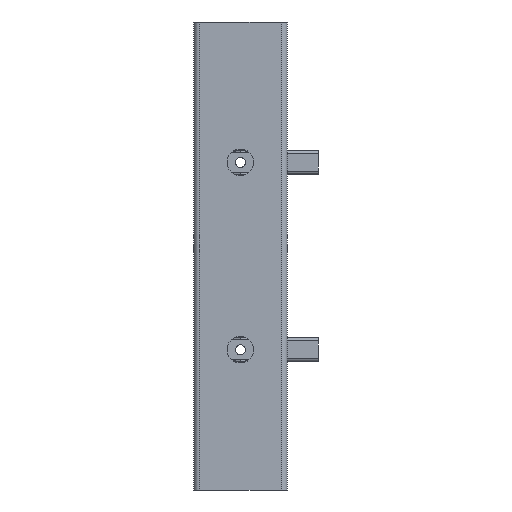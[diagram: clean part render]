
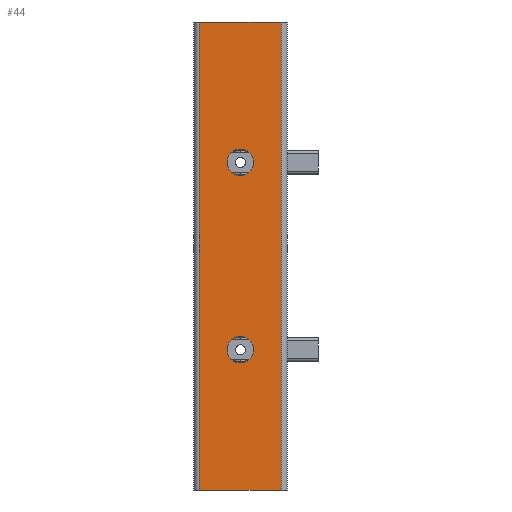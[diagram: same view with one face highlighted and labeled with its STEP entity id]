
A CAD part, front view. The second image highlights one B-rep face of the part: STEP entity #44.
In plain terms, the highlighted planar face has unit normal (0, -1, 0).
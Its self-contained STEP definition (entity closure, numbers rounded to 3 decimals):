
#44 = ADVANCED_FACE('',(#45,#162,#192),#59,.F.);
#45 = FACE_BOUND('',#46,.F.);
#46 = EDGE_LOOP('',(#47,#82,#109,#137));
#47 = ORIENTED_EDGE('',*,*,#48,.F.);
#48 = EDGE_CURVE('',#49,#51,#53,.T.);
#49 = VERTEX_POINT('',#50);
#50 = CARTESIAN_POINT('',(-33.338,-19.05,-190.5));
#51 = VERTEX_POINT('',#52);
#52 = CARTESIAN_POINT('',(33.338,-19.05,-190.5));
#53 = SURFACE_CURVE('',#54,(#58,#70),.PCURVE_S1.);
#54 = LINE('',#55,#56);
#55 = CARTESIAN_POINT('',(-38.1,-19.05,-190.5));
#56 = VECTOR('',#57,1.);
#57 = DIRECTION('',(1.,0.,0.));
#58 = PCURVE('',#59,#64);
#59 = PLANE('',#60);
#60 = AXIS2_PLACEMENT_3D('',#61,#62,#63);
#61 = CARTESIAN_POINT('',(-38.1,-19.05,-190.5));
#62 = DIRECTION('',(0.,1.,0.));
#63 = DIRECTION('',(1.,0.,0.));
#64 = DEFINITIONAL_REPRESENTATION('',(#65),#69);
#65 = LINE('',#66,#67);
#66 = CARTESIAN_POINT('',(0.,0.));
#67 = VECTOR('',#68,1.);
#68 = DIRECTION('',(1.,0.));
#69 = ( GEOMETRIC_REPRESENTATION_CONTEXT(2) 
PARAMETRIC_REPRESENTATION_CONTEXT() REPRESENTATION_CONTEXT('2D SPACE',''
  ) );
#70 = PCURVE('',#71,#76);
#71 = PLANE('',#72);
#72 = AXIS2_PLACEMENT_3D('',#73,#74,#75);
#73 = CARTESIAN_POINT('',(-38.1,-19.05,-190.5));
#74 = DIRECTION('',(0.,0.,-1.));
#75 = DIRECTION('',(-1.,0.,-0.));
#76 = DEFINITIONAL_REPRESENTATION('',(#77),#81);
#77 = LINE('',#78,#79);
#78 = CARTESIAN_POINT('',(0.,0.));
#79 = VECTOR('',#80,1.);
#80 = DIRECTION('',(-1.,0.));
#81 = ( GEOMETRIC_REPRESENTATION_CONTEXT(2) 
PARAMETRIC_REPRESENTATION_CONTEXT() REPRESENTATION_CONTEXT('2D SPACE',''
  ) );
#82 = ORIENTED_EDGE('',*,*,#83,.T.);
#83 = EDGE_CURVE('',#49,#84,#86,.T.);
#84 = VERTEX_POINT('',#85);
#85 = CARTESIAN_POINT('',(-33.338,-19.05,190.5));
#86 = SURFACE_CURVE('',#87,(#91,#98),.PCURVE_S1.);
#87 = LINE('',#88,#89);
#88 = CARTESIAN_POINT('',(-33.338,-19.05,-190.5));
#89 = VECTOR('',#90,1.);
#90 = DIRECTION('',(0.,0.,1.));
#91 = PCURVE('',#59,#92);
#92 = DEFINITIONAL_REPRESENTATION('',(#93),#97);
#93 = LINE('',#94,#95);
#94 = CARTESIAN_POINT('',(4.763,0.));
#95 = VECTOR('',#96,1.);
#96 = DIRECTION('',(0.,-1.));
#97 = ( GEOMETRIC_REPRESENTATION_CONTEXT(2) 
PARAMETRIC_REPRESENTATION_CONTEXT() REPRESENTATION_CONTEXT('2D SPACE',''
  ) );
#98 = PCURVE('',#99,#104);
#99 = CYLINDRICAL_SURFACE('',#100,4.763);
#100 = AXIS2_PLACEMENT_3D('',#101,#102,#103);
#101 = CARTESIAN_POINT('',(-33.338,-14.288,-190.5));
#102 = DIRECTION('',(0.,0.,1.));
#103 = DIRECTION('',(0.,-1.,0.));
#104 = DEFINITIONAL_REPRESENTATION('',(#105),#108);
#105 = B_SPLINE_CURVE_WITH_KNOTS('',1,(#106,#107),.UNSPECIFIED.,.F.,.F.,
  (2,2),(0.,381.),.PIECEWISE_BEZIER_KNOTS.);
#106 = CARTESIAN_POINT('',(6.283,0.));
#107 = CARTESIAN_POINT('',(6.283,381.));
#108 = ( GEOMETRIC_REPRESENTATION_CONTEXT(2) 
PARAMETRIC_REPRESENTATION_CONTEXT() REPRESENTATION_CONTEXT('2D SPACE',''
  ) );
#109 = ORIENTED_EDGE('',*,*,#110,.T.);
#110 = EDGE_CURVE('',#84,#111,#113,.T.);
#111 = VERTEX_POINT('',#112);
#112 = CARTESIAN_POINT('',(33.338,-19.05,190.5));
#113 = SURFACE_CURVE('',#114,(#118,#125),.PCURVE_S1.);
#114 = LINE('',#115,#116);
#115 = CARTESIAN_POINT('',(-38.1,-19.05,190.5));
#116 = VECTOR('',#117,1.);
#117 = DIRECTION('',(1.,0.,0.));
#118 = PCURVE('',#59,#119);
#119 = DEFINITIONAL_REPRESENTATION('',(#120),#124);
#120 = LINE('',#121,#122);
#121 = CARTESIAN_POINT('',(0.,-381.));
#122 = VECTOR('',#123,1.);
#123 = DIRECTION('',(1.,0.));
#124 = ( GEOMETRIC_REPRESENTATION_CONTEXT(2) 
PARAMETRIC_REPRESENTATION_CONTEXT() REPRESENTATION_CONTEXT('2D SPACE',''
  ) );
#125 = PCURVE('',#126,#131);
#126 = PLANE('',#127);
#127 = AXIS2_PLACEMENT_3D('',#128,#129,#130);
#128 = CARTESIAN_POINT('',(-38.1,-19.05,190.5));
#129 = DIRECTION('',(0.,0.,-1.));
#130 = DIRECTION('',(-1.,0.,-0.));
#131 = DEFINITIONAL_REPRESENTATION('',(#132),#136);
#132 = LINE('',#133,#134);
#133 = CARTESIAN_POINT('',(0.,0.));
#134 = VECTOR('',#135,1.);
#135 = DIRECTION('',(-1.,0.));
#136 = ( GEOMETRIC_REPRESENTATION_CONTEXT(2) 
PARAMETRIC_REPRESENTATION_CONTEXT() REPRESENTATION_CONTEXT('2D SPACE',''
  ) );
#137 = ORIENTED_EDGE('',*,*,#138,.F.);
#138 = EDGE_CURVE('',#51,#111,#139,.T.);
#139 = SURFACE_CURVE('',#140,(#144,#151),.PCURVE_S1.);
#140 = LINE('',#141,#142);
#141 = CARTESIAN_POINT('',(33.338,-19.05,-190.5));
#142 = VECTOR('',#143,1.);
#143 = DIRECTION('',(0.,0.,1.));
#144 = PCURVE('',#59,#145);
#145 = DEFINITIONAL_REPRESENTATION('',(#146),#150);
#146 = LINE('',#147,#148);
#147 = CARTESIAN_POINT('',(71.438,0.));
#148 = VECTOR('',#149,1.);
#149 = DIRECTION('',(0.,-1.));
#150 = ( GEOMETRIC_REPRESENTATION_CONTEXT(2) 
PARAMETRIC_REPRESENTATION_CONTEXT() REPRESENTATION_CONTEXT('2D SPACE',''
  ) );
#151 = PCURVE('',#152,#157);
#152 = CYLINDRICAL_SURFACE('',#153,4.763);
#153 = AXIS2_PLACEMENT_3D('',#154,#155,#156);
#154 = CARTESIAN_POINT('',(33.338,-14.288,-190.5));
#155 = DIRECTION('',(0.,0.,1.));
#156 = DIRECTION('',(0.,-1.,0.));
#157 = DEFINITIONAL_REPRESENTATION('',(#158),#161);
#158 = B_SPLINE_CURVE_WITH_KNOTS('',1,(#159,#160),.UNSPECIFIED.,.F.,.F.,
  (2,2),(0.,381.),.PIECEWISE_BEZIER_KNOTS.);
#159 = CARTESIAN_POINT('',(0.,0.));
#160 = CARTESIAN_POINT('',(0.,381.));
#161 = ( GEOMETRIC_REPRESENTATION_CONTEXT(2) 
PARAMETRIC_REPRESENTATION_CONTEXT() REPRESENTATION_CONTEXT('2D SPACE',''
  ) );
#162 = FACE_BOUND('',#163,.F.);
#163 = EDGE_LOOP('',(#164));
#164 = ORIENTED_EDGE('',*,*,#165,.F.);
#165 = EDGE_CURVE('',#166,#166,#168,.T.);
#166 = VERTEX_POINT('',#167);
#167 = CARTESIAN_POINT('',(-10.795,-19.05,-76.2));
#168 = SURFACE_CURVE('',#169,(#174,#181),.PCURVE_S1.);
#169 = CIRCLE('',#170,10.795);
#170 = AXIS2_PLACEMENT_3D('',#171,#172,#173);
#171 = CARTESIAN_POINT('',(0.,-19.05,-76.2));
#172 = DIRECTION('',(0.,1.,-0.));
#173 = DIRECTION('',(-1.,0.,0.));
#174 = PCURVE('',#59,#175);
#175 = DEFINITIONAL_REPRESENTATION('',(#176),#180);
#176 = CIRCLE('',#177,10.795);
#177 = AXIS2_PLACEMENT_2D('',#178,#179);
#178 = CARTESIAN_POINT('',(38.1,-114.3));
#179 = DIRECTION('',(-1.,0.));
#180 = ( GEOMETRIC_REPRESENTATION_CONTEXT(2) 
PARAMETRIC_REPRESENTATION_CONTEXT() REPRESENTATION_CONTEXT('2D SPACE',''
  ) );
#181 = PCURVE('',#182,#187);
#182 = CYLINDRICAL_SURFACE('',#183,10.795);
#183 = AXIS2_PLACEMENT_3D('',#184,#185,#186);
#184 = CARTESIAN_POINT('',(0.,-19.05,-76.2));
#185 = DIRECTION('',(0.,1.,0.));
#186 = DIRECTION('',(-1.,0.,0.));
#187 = DEFINITIONAL_REPRESENTATION('',(#188),#191);
#188 = B_SPLINE_CURVE_WITH_KNOTS('',1,(#189,#190),.UNSPECIFIED.,.F.,.F.,
  (2,2),(0.,6.283),.PIECEWISE_BEZIER_KNOTS.);
#189 = CARTESIAN_POINT('',(0.,0.));
#190 = CARTESIAN_POINT('',(6.283,0.));
#191 = ( GEOMETRIC_REPRESENTATION_CONTEXT(2) 
PARAMETRIC_REPRESENTATION_CONTEXT() REPRESENTATION_CONTEXT('2D SPACE',''
  ) );
#192 = FACE_BOUND('',#193,.F.);
#193 = EDGE_LOOP('',(#194));
#194 = ORIENTED_EDGE('',*,*,#195,.F.);
#195 = EDGE_CURVE('',#196,#196,#198,.T.);
#196 = VERTEX_POINT('',#197);
#197 = CARTESIAN_POINT('',(-10.795,-19.05,76.2));
#198 = SURFACE_CURVE('',#199,(#204,#211),.PCURVE_S1.);
#199 = CIRCLE('',#200,10.795);
#200 = AXIS2_PLACEMENT_3D('',#201,#202,#203);
#201 = CARTESIAN_POINT('',(0.,-19.05,76.2));
#202 = DIRECTION('',(0.,1.,-0.));
#203 = DIRECTION('',(-1.,0.,0.));
#204 = PCURVE('',#59,#205);
#205 = DEFINITIONAL_REPRESENTATION('',(#206),#210);
#206 = CIRCLE('',#207,10.795);
#207 = AXIS2_PLACEMENT_2D('',#208,#209);
#208 = CARTESIAN_POINT('',(38.1,-266.7));
#209 = DIRECTION('',(-1.,0.));
#210 = ( GEOMETRIC_REPRESENTATION_CONTEXT(2) 
PARAMETRIC_REPRESENTATION_CONTEXT() REPRESENTATION_CONTEXT('2D SPACE',''
  ) );
#211 = PCURVE('',#212,#217);
#212 = CYLINDRICAL_SURFACE('',#213,10.795);
#213 = AXIS2_PLACEMENT_3D('',#214,#215,#216);
#214 = CARTESIAN_POINT('',(0.,-19.05,76.2));
#215 = DIRECTION('',(0.,1.,0.));
#216 = DIRECTION('',(-1.,0.,0.));
#217 = DEFINITIONAL_REPRESENTATION('',(#218),#221);
#218 = B_SPLINE_CURVE_WITH_KNOTS('',1,(#219,#220),.UNSPECIFIED.,.F.,.F.,
  (2,2),(0.,6.283),.PIECEWISE_BEZIER_KNOTS.);
#219 = CARTESIAN_POINT('',(0.,0.));
#220 = CARTESIAN_POINT('',(6.283,0.));
#221 = ( GEOMETRIC_REPRESENTATION_CONTEXT(2) 
PARAMETRIC_REPRESENTATION_CONTEXT() REPRESENTATION_CONTEXT('2D SPACE',''
  ) );
